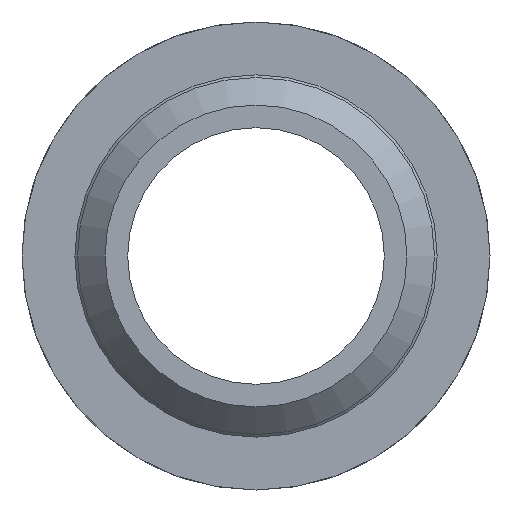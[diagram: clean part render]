
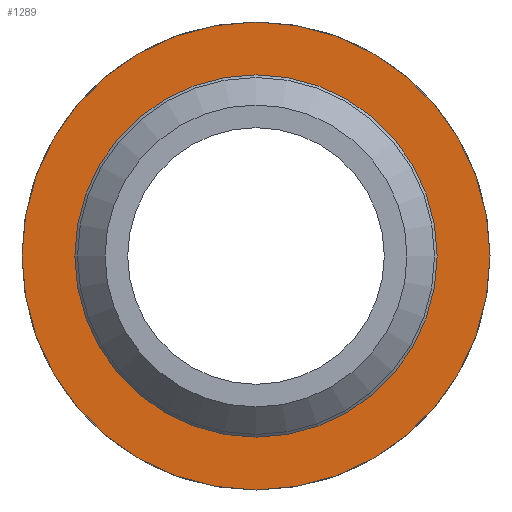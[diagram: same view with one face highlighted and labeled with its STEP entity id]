
A CAD part, left-side view. The second image highlights one B-rep face of the part: STEP entity #1289.
In plain terms, the highlighted planar face has unit normal (-1, 0, 0).
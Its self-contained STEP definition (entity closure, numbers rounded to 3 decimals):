
#199=CARTESIAN_POINT('',(-25.116,24.,0.));
#200=VERTEX_POINT('',#199);
#201=CARTESIAN_POINT('',(-25.116,0.,0.));
#202=DIRECTION('',(1.0,0.0,0.0));
#203=DIRECTION('',(0.0,1.0,0.0));
#204=AXIS2_PLACEMENT_3D('',#201,#202,#203);
#205=CIRCLE('',#204,24.);
#206=EDGE_CURVE('',#200,#200,#205,.T.);
#1270=CARTESIAN_POINT('',(-25.116,27.5,0.));
#1271=DIRECTION('',(-1.0,0.0,0.0));
#1272=DIRECTION('',(0.0,0.0,1.0));
#1273=AXIS2_PLACEMENT_3D('',#1270,#1271,#1272);
#1274=PLANE('',#1273);
#1275=CARTESIAN_POINT('',(-25.116,31.,0.));
#1276=VERTEX_POINT('',#1275);
#1277=CARTESIAN_POINT('',(-25.116,0.,0.));
#1278=DIRECTION('',(1.0,0.0,0.0));
#1279=DIRECTION('',(0.0,1.0,0.0));
#1280=AXIS2_PLACEMENT_3D('',#1277,#1278,#1279);
#1281=CIRCLE('',#1280,31.);
#1282=EDGE_CURVE('',#1276,#1276,#1281,.T.);
#1283=ORIENTED_EDGE('',*,*,#1282,.F.);
#1284=EDGE_LOOP('',(#1283));
#1285=FACE_OUTER_BOUND('',#1284,.T.);
#1286=ORIENTED_EDGE('',*,*,#206,.T.);
#1287=EDGE_LOOP('',(#1286));
#1288=FACE_BOUND('',#1287,.T.);
#1289=ADVANCED_FACE('',(#1285,#1288),#1274,.T.);
